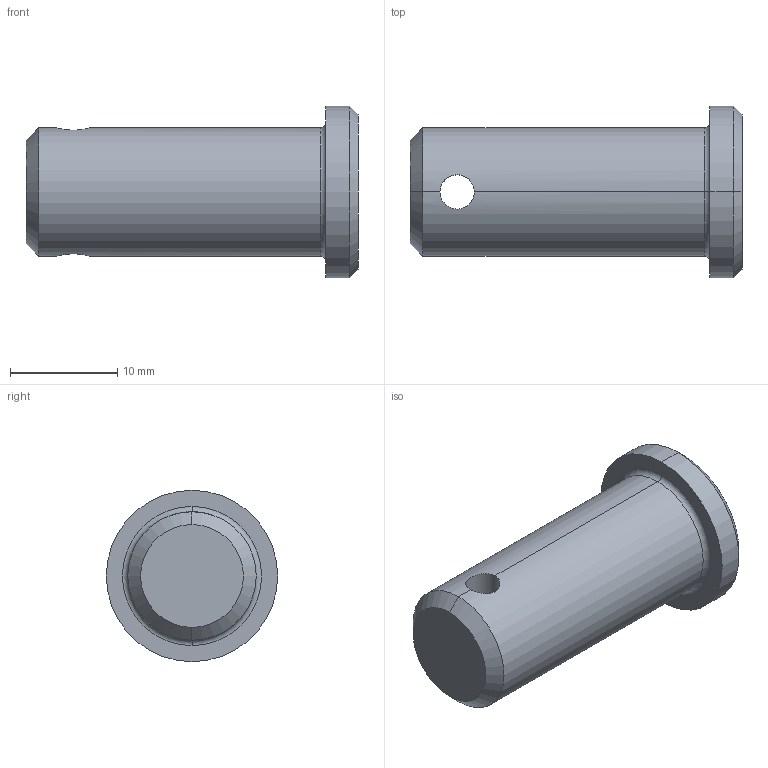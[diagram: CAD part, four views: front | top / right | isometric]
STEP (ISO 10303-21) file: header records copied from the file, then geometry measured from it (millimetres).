
FILE_DESCRIPTION (( 'STEP AP203' ), '1' );
FILE_NAME ('Wiberger-sms2360_12x28.step', '2012-10-09T08:57:23', ( 'Magnus' ), ( 'Wiberger' ), 'SwSTEP 2.0', 'SolidWorks 2011', '' );
FILE_SCHEMA (( 'CONFIG_CONTROL_DESIGN' ));
Length unit declared in the file: millimetre
Products named in the file (1): Wiberger-sms2360_12x28
Bounding box: 31 x 16 x 16 mm (x, y, z)
Volume: 3635.4 mm3; surface area: 1650 mm2
Topology: 1 solids, 1 shells, 15 faces, 32 edges, 18 vertices
Faces by surface type: cylinder 6, cone 4, plane 3, torus 2
Entity records: 579 total; most frequent: CARTESIAN_POINT 170, DIRECTION 76, ORIENTED_EDGE 64, EDGE_CURVE 32, AXIS2_PLACEMENT_3D 32, VERTEX_POINT 18, EDGE_LOOP 16, CIRCLE 16
